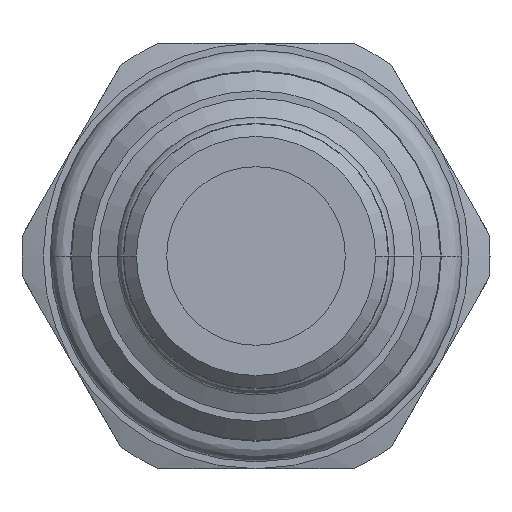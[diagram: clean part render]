
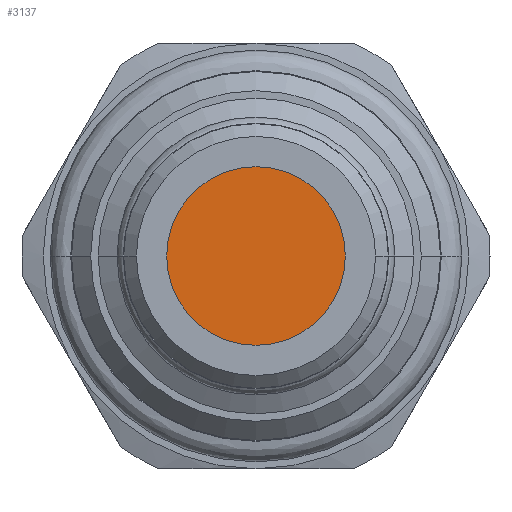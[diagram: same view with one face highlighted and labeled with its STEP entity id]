
A CAD part, front view. The second image highlights one B-rep face of the part: STEP entity #3137.
In plain terms, the highlighted planar face has unit normal (0, -1, 0).
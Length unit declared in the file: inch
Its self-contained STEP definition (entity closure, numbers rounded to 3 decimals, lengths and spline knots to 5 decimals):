
#934=CARTESIAN_POINT('',(0.,-1.31577,0.));
#935=DIRECTION('',(0.,-1.,0.));
#936=DIRECTION('',(0.,0.,-1.));
#937=AXIS2_PLACEMENT_3D('',#934,#935,#936);
#939=CARTESIAN_POINT('',(0.,-1.31577,0.));
#940=DIRECTION('',(0.,-1.,0.));
#941=DIRECTION('',(0.,0.,1.));
#942=AXIS2_PLACEMENT_3D('',#939,#940,#941);
#1753=CARTESIAN_POINT('',(0.,-1.31577,-0.21));
#1754=CARTESIAN_POINT('',(0.,-1.31577,0.21));
#1755=VERTEX_POINT('',#1753);
#1756=VERTEX_POINT('',#1754);
#3128=CARTESIAN_POINT('',(0.,-1.31577,0.));
#3129=DIRECTION('',(0.,-1.,0.));
#3130=DIRECTION('',(0.,0.,-1.));
#3131=AXIS2_PLACEMENT_3D('',#3128,#3129,#3130);
#3132=PLANE('',#3131);
#3133=ORIENTED_EDGE('',*,*,#3105,.F.);
#3134=ORIENTED_EDGE('',*,*,#3123,.F.);
#3135=EDGE_LOOP('',(#3133,#3134));
#3136=FACE_OUTER_BOUND('',#3135,.F.);
#3137=ADVANCED_FACE('',(#3136),#3132,.T.);
#938=CIRCLE('',#937,0.21);
#943=CIRCLE('',#942,0.21);
#3105=EDGE_CURVE('',#1755,#1756,#938,.T.);
#3123=EDGE_CURVE('',#1756,#1755,#943,.T.);
